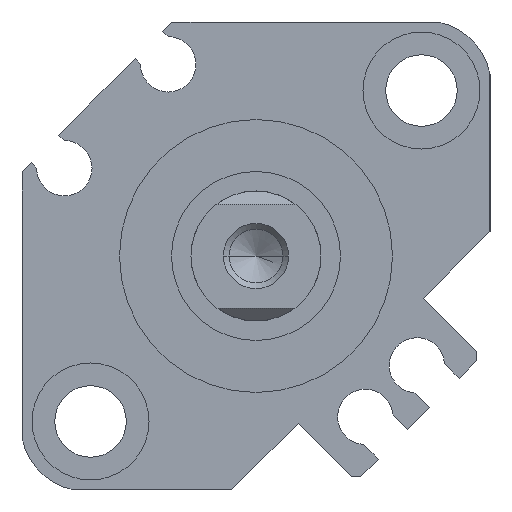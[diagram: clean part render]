
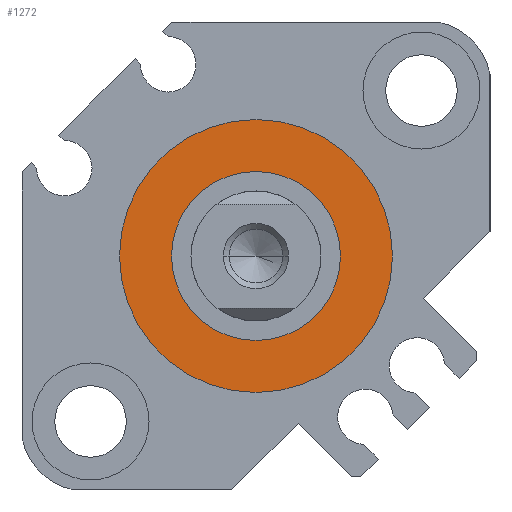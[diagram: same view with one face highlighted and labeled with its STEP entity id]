
A CAD part, left-side view. The second image highlights one B-rep face of the part: STEP entity #1272.
In plain terms, the highlighted planar face has unit normal (-1, 0, 0).
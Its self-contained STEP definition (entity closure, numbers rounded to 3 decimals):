
#111 = CARTESIAN_POINT ( 'NONE',  ( 1.6, 0., 6.5 ) ) ;
#236 = EDGE_CURVE ( 'NONE', #1607, #2148, #1280, .T. ) ;
#283 = DIRECTION ( 'NONE',  ( 0., 0., -1. ) ) ;
#302 = CIRCLE ( 'NONE', #750, 10.5 ) ;
#339 = ORIENTED_EDGE ( 'NONE', *, *, #3350, .F. ) ;
#449 = FACE_BOUND ( 'NONE', #3287, .T. ) ;
#493 = DIRECTION ( 'NONE',  ( 0., 0., -1. ) ) ;
#494 = CARTESIAN_POINT ( 'NONE',  ( 1.6, 0., 0. ) ) ;
#741 = AXIS2_PLACEMENT_3D ( 'NONE', #494, #3184, #283 ) ;
#750 = AXIS2_PLACEMENT_3D ( 'NONE', #2078, #1599, #809 ) ;
#809 = DIRECTION ( 'NONE',  ( 0., 0., -1. ) ) ;
#867 = CIRCLE ( 'NONE', #2308, 6.5 ) ;
#1128 = EDGE_CURVE ( 'NONE', #1821, #2177, #302, .T. ) ;
#1153 = PLANE ( 'NONE',  #1726 ) ;
#1188 = CARTESIAN_POINT ( 'NONE',  ( 1.6, 0., 0. ) ) ;
#1207 = CARTESIAN_POINT ( 'NONE',  ( 1.6, 0., -10.5 ) ) ;
#1272 = ADVANCED_FACE ( 'NONE', ( #3012, #449 ), #1153, .F. ) ;
#1280 = CIRCLE ( 'NONE', #741, 6.5 ) ;
#1503 = DIRECTION ( 'NONE',  ( 0., 1., 0. ) ) ;
#1599 = DIRECTION ( 'NONE',  ( 1., 0., 0. ) ) ;
#1607 = VERTEX_POINT ( 'NONE', #111 ) ;
#1615 = AXIS2_PLACEMENT_3D ( 'NONE', #2264, #2301, #3304 ) ;
#1685 = ORIENTED_EDGE ( 'NONE', *, *, #236, .T. ) ;
#1726 = AXIS2_PLACEMENT_3D ( 'NONE', #1188, #2251, #1503 ) ;
#1821 = VERTEX_POINT ( 'NONE', #1207 ) ;
#1934 = CARTESIAN_POINT ( 'NONE',  ( 1.6, 0., -6.5 ) ) ;
#1935 = ORIENTED_EDGE ( 'NONE', *, *, #2803, .T. ) ;
#2002 = ORIENTED_EDGE ( 'NONE', *, *, #1128, .F. ) ;
#2078 = CARTESIAN_POINT ( 'NONE',  ( 1.6, 0., 0. ) ) ;
#2148 = VERTEX_POINT ( 'NONE', #1934 ) ;
#2177 = VERTEX_POINT ( 'NONE', #2232 ) ;
#2232 = CARTESIAN_POINT ( 'NONE',  ( 1.6, 0., 10.5 ) ) ;
#2251 = DIRECTION ( 'NONE',  ( 1., 0., 0. ) ) ;
#2264 = CARTESIAN_POINT ( 'NONE',  ( 1.6, 0., 0. ) ) ;
#2301 = DIRECTION ( 'NONE',  ( 1., 0., 0. ) ) ;
#2308 = AXIS2_PLACEMENT_3D ( 'NONE', #3398, #2566, #493 ) ;
#2566 = DIRECTION ( 'NONE',  ( 1., 0., 0. ) ) ;
#2803 = EDGE_CURVE ( 'NONE', #2148, #1607, #867, .T. ) ;
#3012 = FACE_OUTER_BOUND ( 'NONE', #3035, .T. ) ;
#3035 = EDGE_LOOP ( 'NONE', ( #339, #2002 ) ) ;
#3165 = CIRCLE ( 'NONE', #1615, 10.5 ) ;
#3184 = DIRECTION ( 'NONE',  ( 1., 0., 0. ) ) ;
#3287 = EDGE_LOOP ( 'NONE', ( #1685, #1935 ) ) ;
#3304 = DIRECTION ( 'NONE',  ( 0., 0., -1. ) ) ;
#3350 = EDGE_CURVE ( 'NONE', #2177, #1821, #3165, .T. ) ;
#3398 = CARTESIAN_POINT ( 'NONE',  ( 1.6, 0., 0. ) ) ;
